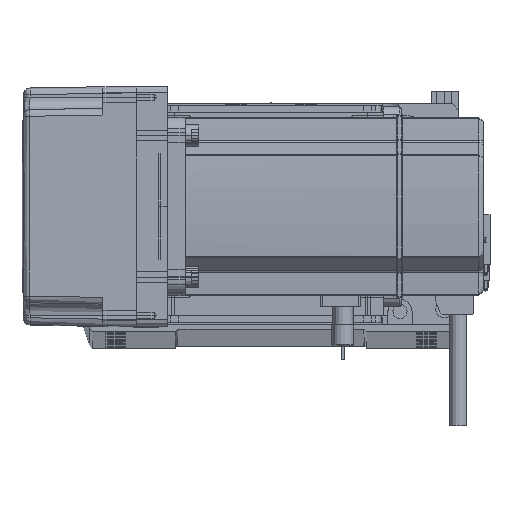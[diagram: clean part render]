
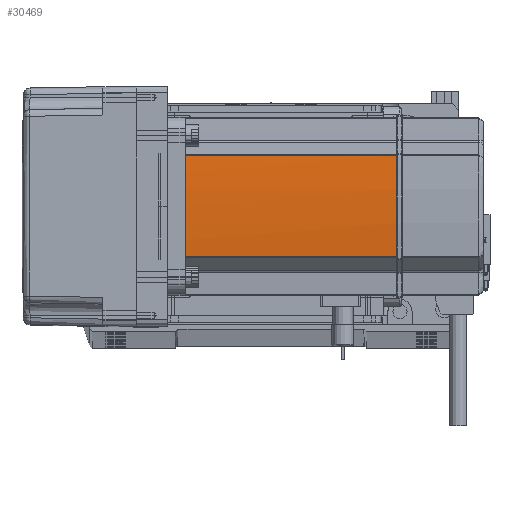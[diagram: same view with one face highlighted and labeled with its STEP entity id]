
A CAD part, top view. The second image highlights one B-rep face of the part: STEP entity #30469.
In plain terms, the highlighted cylindrical face has radius 270 mm (diameter 540 mm), a partial arc.
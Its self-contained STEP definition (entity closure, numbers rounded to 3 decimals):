
#1110 = CIRCLE ( 'NONE', #54066, 270. ) ;
#1931 = CARTESIAN_POINT ( 'NONE',  ( 40., 0.127, 134. ) ) ;
#2151 = CARTESIAN_POINT ( 'NONE',  ( 40., -0.042, 134. ) ) ;
#3616 = ORIENTED_EDGE ( 'NONE', *, *, #49012, .T. ) ;
#5049 = VECTOR ( 'NONE', #49346, 1000. ) ;
#5094 = DIRECTION ( 'NONE',  ( 0., 0., -1. ) ) ;
#5744 = CARTESIAN_POINT ( 'NONE',  ( 39.042, -22.724, 58. ) ) ;
#7800 = CIRCLE ( 'NONE', #27555, 270. ) ;
#8188 = CARTESIAN_POINT ( 'NONE',  ( 40., 0.042, 134. ) ) ;
#8501 = LINE ( 'NONE', #5744, #5049 ) ;
#9366 = CIRCLE ( 'NONE', #14517, 270. ) ;
#10003 = DIRECTION ( 'NONE',  ( 0., 0., -1. ) ) ;
#10640 = DIRECTION ( 'NONE',  ( -1., 0., 0. ) ) ;
#10887 = CARTESIAN_POINT ( 'NONE',  ( 39.042, -22.724, 39. ) ) ;
#12935 = EDGE_CURVE ( 'NONE', #24204, #57863, #45451, .T. ) ;
#14517 = AXIS2_PLACEMENT_3D ( 'NONE', #35838, #30025, #41421 ) ;
#16214 = EDGE_CURVE ( 'NONE', #58542, #37225, #9366, .T. ) ;
#18886 = EDGE_CURVE ( 'NONE', #24204, #25080, #7800, .T. ) ;
#19112 = FACE_OUTER_BOUND ( 'NONE', #46834, .T. ) ;
#22540 = EDGE_CURVE ( 'NONE', #65193, #57863, #1110, .T. ) ;
#24204 = VERTEX_POINT ( 'NONE', #47953 ) ;
#25080 = VERTEX_POINT ( 'NONE', #30137 ) ;
#26039 = DIRECTION ( 'NONE',  ( 0., 0., 1. ) ) ;
#26548 = DIRECTION ( 'NONE',  ( -1., 0., 0. ) ) ;
#27555 = AXIS2_PLACEMENT_3D ( 'NONE', #70900, #43466, #26548 ) ;
#30025 = DIRECTION ( 'NONE',  ( 0., 0., -1. ) ) ;
#30137 = CARTESIAN_POINT ( 'NONE',  ( 39.042, -22.724, 134. ) ) ;
#30469 = ADVANCED_FACE ( 'NONE', ( #19112 ), #57872, .T. ) ;
#33709 = EDGE_CURVE ( 'NONE', #25080, #37225, #8501, .T. ) ;
#35838 = CARTESIAN_POINT ( 'NONE',  ( -230., 0., 39. ) ) ;
#37225 = VERTEX_POINT ( 'NONE', #10887 ) ;
#37873 = CARTESIAN_POINT ( 'NONE',  ( -230., 0., 134. ) ) ;
#39689 = ORIENTED_EDGE ( 'NONE', *, *, #33709, .T. ) ;
#39914 = VECTOR ( 'NONE', #26039, 1000. ) ;
#40064 = CARTESIAN_POINT ( 'NONE',  ( 40., 0.127, 134. ) ) ;
#40715 = CARTESIAN_POINT ( 'NONE',  ( 40., -0.127, 134. ) ) ;
#41421 = DIRECTION ( 'NONE',  ( -1., 0., 0. ) ) ;
#41494 = ORIENTED_EDGE ( 'NONE', *, *, #22540, .T. ) ;
#42584 = AXIS2_PLACEMENT_3D ( 'NONE', #59958, #5094, #10640 ) ;
#43377 = LINE ( 'NONE', #53799, #39914 ) ;
#43466 = DIRECTION ( 'NONE',  ( 0., 0., -1. ) ) ;
#45451 = B_SPLINE_CURVE_WITH_KNOTS ( 'NONE', 3,
 ( #40715, #2151, #8188, #1931 ),
 .UNSPECIFIED., .F., .F.,
 ( 4, 4 ),
 ( 0., 1. ),
 .UNSPECIFIED. ) ;
#46834 = EDGE_LOOP ( 'NONE', ( #39689, #52477, #3616, #41494, #65821, #64039 ) ) ;
#47953 = CARTESIAN_POINT ( 'NONE',  ( 40., -0.127, 134. ) ) ;
#49012 = EDGE_CURVE ( 'NONE', #58542, #65193, #43377, .T. ) ;
#49346 = DIRECTION ( 'NONE',  ( 0., 0., -1. ) ) ;
#51291 = CARTESIAN_POINT ( 'NONE',  ( 39.042, 22.724, 39. ) ) ;
#52477 = ORIENTED_EDGE ( 'NONE', *, *, #16214, .F. ) ;
#53799 = CARTESIAN_POINT ( 'NONE',  ( 39.042, 22.724, 58. ) ) ;
#54066 = AXIS2_PLACEMENT_3D ( 'NONE', #37873, #10003, #60265 ) ;
#56503 = CARTESIAN_POINT ( 'NONE',  ( 39.042, 22.724, 134. ) ) ;
#57863 = VERTEX_POINT ( 'NONE', #40064 ) ;
#57872 = CYLINDRICAL_SURFACE ( 'NONE', #42584, 270. ) ;
#58542 = VERTEX_POINT ( 'NONE', #51291 ) ;
#59958 = CARTESIAN_POINT ( 'NONE',  ( -230., 0., 58. ) ) ;
#60265 = DIRECTION ( 'NONE',  ( -1., 0., 0. ) ) ;
#64039 = ORIENTED_EDGE ( 'NONE', *, *, #18886, .T. ) ;
#65193 = VERTEX_POINT ( 'NONE', #56503 ) ;
#65821 = ORIENTED_EDGE ( 'NONE', *, *, #12935, .F. ) ;
#70900 = CARTESIAN_POINT ( 'NONE',  ( -230., 0., 134. ) ) ;
